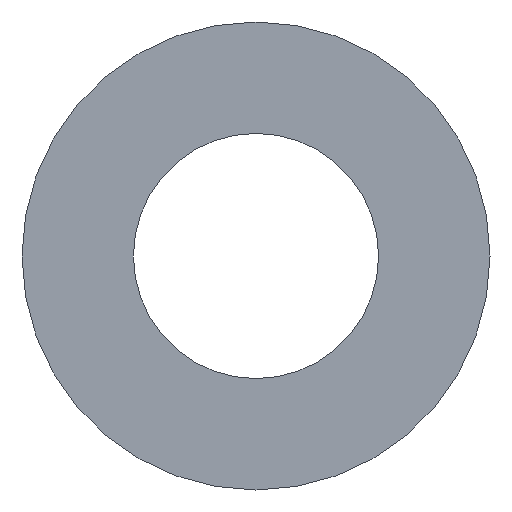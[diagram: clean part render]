
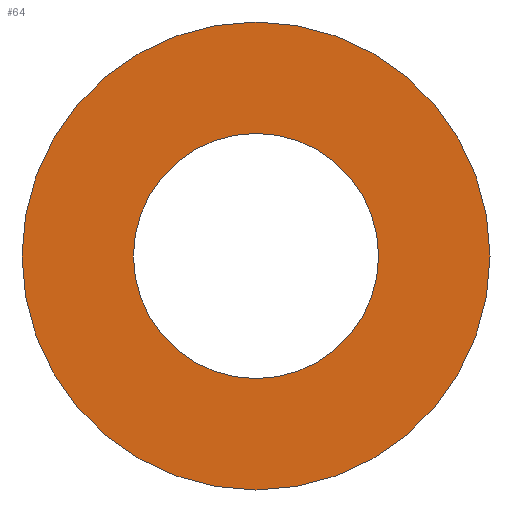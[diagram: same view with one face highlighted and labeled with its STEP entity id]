
A CAD part, left-side view. The second image highlights one B-rep face of the part: STEP entity #64.
In plain terms, the highlighted planar face has unit normal (-1, 0, 0).
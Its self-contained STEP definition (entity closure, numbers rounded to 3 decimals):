
#16=FACE_BOUND('',#28,.T.);
#18=PLANE('',#95);
#22=FACE_OUTER_BOUND('',#27,.T.);
#27=EDGE_LOOP('',(#57));
#28=EDGE_LOOP('',(#58));
#33=CIRCLE('',#89,5.5);
#36=CIRCLE('',#93,10.5);
#37=VERTEX_POINT('',#118);
#40=VERTEX_POINT('',#126);
#41=EDGE_CURVE('',#37,#37,#33,.T.);
#46=EDGE_CURVE('',#40,#40,#36,.T.);
#57=ORIENTED_EDGE('',*,*,#46,.T.);
#58=ORIENTED_EDGE('',*,*,#41,.T.);
#64=ADVANCED_FACE('',(#22,#16),#18,.T.);
#89=AXIS2_PLACEMENT_3D('',#119,#100,#101);
#93=AXIS2_PLACEMENT_3D('',#128,#110,#111);
#95=AXIS2_PLACEMENT_3D('',#130,#114,#115);
#100=DIRECTION('center_axis',(1.,0.,0.));
#101=DIRECTION('ref_axis',(0.,-1.,0.));
#110=DIRECTION('center_axis',(-1.,0.,0.));
#111=DIRECTION('ref_axis',(0.,-1.,0.));
#114=DIRECTION('center_axis',(-1.,0.,0.));
#115=DIRECTION('ref_axis',(0.,0.,1.));
#118=CARTESIAN_POINT('',(0.,5.5,0.));
#119=CARTESIAN_POINT('Origin',(0.,0.,0.));
#126=CARTESIAN_POINT('',(0.,10.5,0.));
#128=CARTESIAN_POINT('Origin',(0.,0.,0.));
#130=CARTESIAN_POINT('Origin',(0.,0.,0.));
